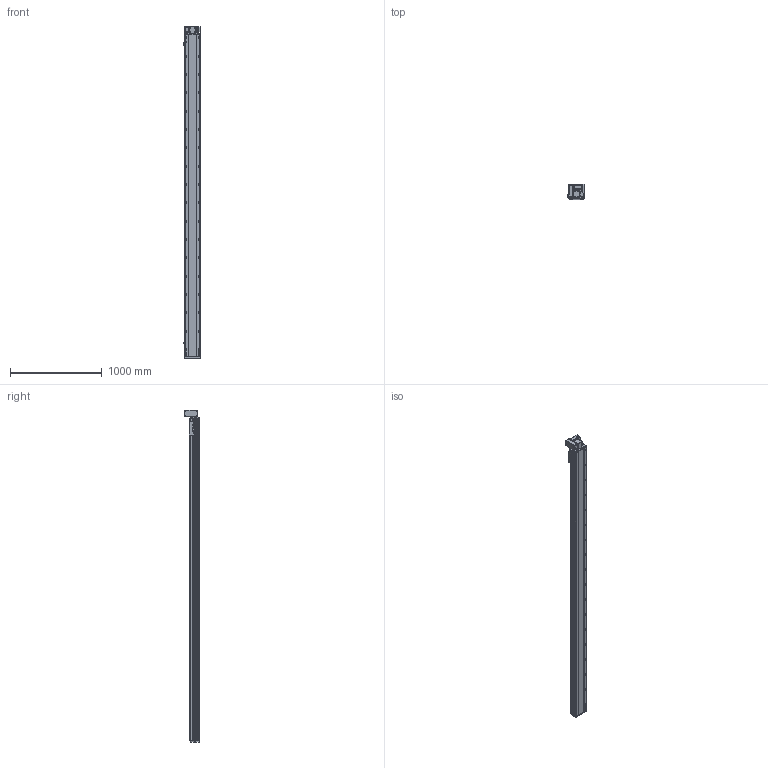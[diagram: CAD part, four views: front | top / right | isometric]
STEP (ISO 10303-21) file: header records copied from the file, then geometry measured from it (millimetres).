
FILE_DESCRIPTION (( 'STEP AP214' ), '1' );
FILE_NAME ('RTB17S-XX-3250-LW-M40-C4.STEP', '2025-12-11T07:22:46', ( '' ), ( '' ), 'SwSTEP 2.0', 'SolidWorks 2018', '' );
FILE_SCHEMA (( 'AUTOMOTIVE_DESIGN' ));
Length unit declared in the file: millimetre
Products named in the file (14): RTB17-R-011菁釱^RTB17S-XX-XX-LW-M40-C4; RTB17S-LW-々湍釱蚾饜-400W^RTB17S-XX-XX-LW-M40-C4; RTB14-L-005P--轴承塑胶压盖^RTB17S-LW-皮带座装配-400W_RTB17S-XX-XX-LW-M40-C4; RTB17S-XX-3250-LW-M40-C4; RTB14-L-017P^RTB17S-LW-々湍釱蚾饜-400W_RTB17S-XX-XX-LW-M40-C4; RTB14-L-018P^RTB17S-LW-々湍釱蚾饜-400W_RTB17S-XX-XX-LW-M40-C4; 400W侜督萇儂^RTB17S-XX-XX-LW-M40-C4; RTB17S-L-004佪裝蹟譫蟀諉釱^RTB17S-XX-XX-LW-M40-C4; RTB17S-L-001耜醱啣^RTB17S-XX-XX-LW-M40-C4; RTH13-BL-012覜茼え俋离^RTB17S-XX-XX-LW-M40-C4; OMRON EE-SX672 传感器^RTB17S-XX-XX-LW-M40-C4; RTB14-L-008-M20--萇儂啣^RTB17S-LW-々湍釱蚾饜-400W_RTB17S-XX-XX-LW-M40-C4; RTB17S-L-007奻裔^RTB17S-XX-XX-LW-M40-C4; RTB17S-L-014-T20--々湍釱^RTB17S-LW-々湍釱蚾饜-400W_RTB17S-XX-XX-LW-M40-C4
Assembly tree (16 placements, depth 3):
  RTB17S-XX-3250-LW-M40-C4
    RTB17-R-011菁釱^RTB17S-XX-XX-LW-M40-C4
    RTB17S-L-007奻裔^RTB17S-XX-XX-LW-M40-C4
    OMRON EE-SX672 传感器^RTB17S-XX-XX-LW-M40-C4  x3
    RTB17S-L-001耜醱啣^RTB17S-XX-XX-LW-M40-C4
    400W侜督萇儂^RTB17S-XX-XX-LW-M40-C4
    RTB17S-L-004佪裝蹟譫蟀諉釱^RTB17S-XX-XX-LW-M40-C4
    RTH13-BL-012覜茼え俋离^RTB17S-XX-XX-LW-M40-C4
    RTB17S-LW-々湍釱蚾饜-400W^RTB17S-XX-XX-LW-M40-C4
      RTB17S-L-014-T20--々湍釱^RTB17S-LW-々湍釱蚾饜-400W_RTB17S-XX-XX-LW-M40-C4
      RTB14-L-005P--轴承塑胶压盖^RTB17S-LW-皮带座装配-400W_RTB17S-XX-XX-LW-M40-C4
      RTB14-L-008-M20--萇儂啣^RTB17S-LW-々湍釱蚾饜-400W_RTB17S-XX-XX-LW-M40-C4
      RTB14-L-017P^RTB17S-LW-々湍釱蚾饜-400W_RTB17S-XX-XX-LW-M40-C4  x2
      RTB14-L-018P^RTB17S-LW-々湍釱蚾饜-400W_RTB17S-XX-XX-LW-M40-C4
Bounding box: 186 x 160.5 x 3622.5 mm (x, y, z)
Volume: 30717658.7 mm3; surface area: 3500769.1 mm2
Topology: 15 solids, 15 shells, 2397 faces, 6735 edges, 4401 vertices
Faces by surface type: plane 1092, cylinder 857, bspline 301, cone 139, torus 8
Entity records: 71849 total; most frequent: CARTESIAN_POINT 20540, ORIENTED_EDGE 10314, DIRECTION 9476, EDGE_CURVE 5157, VERTEX_POINT 3389, AXIS2_PLACEMENT_3D 3319, VECTOR 2838, LINE 2838
